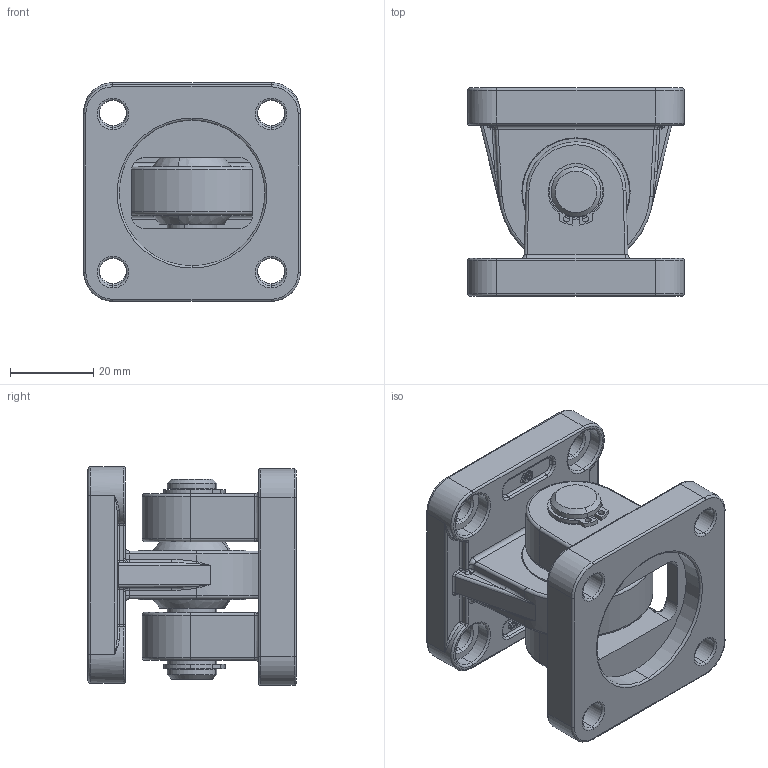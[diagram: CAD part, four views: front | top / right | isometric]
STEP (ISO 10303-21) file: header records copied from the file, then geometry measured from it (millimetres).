
FILE_DESCRIPTION (( 'STEP AP203' ), '1' );
FILE_NAME ('蚾饜极-ISO-CN 40.STEP', '2022-06-23T10:30:26', ( 'Windows' ), ( 'Microsoft' ), 'SwSTEP 2.0', 'SolidWorks 2018', '' );
FILE_SCHEMA (( 'CONFIG_CONTROL_DESIGN' ));
Length unit declared in the file: millimetre
Products named in the file (9): SGS-26X12-ͭȦ; SGS-22.2X16-紩赽; ISO-CS 40ㄗ磁踢ㄘ; C-12; SF-1 141211; ISO-CN 40-种赽; 蚾饜极-ISO-CN 40; ISO-CN 40-MP; ISO-CS40ㄗ磁踢ㄘ
Assembly tree (10 placements, depth 3):
  蚾饜极-ISO-CN 40
    ISO-CN 40-MP
    ISO-CS 40ㄗ磁踢ㄘ
      ISO-CS40ㄗ磁踢ㄘ
      SGS-26X12-ͭȦ
      SGS-22.2X16-紩赽
    C-12  x2
    SF-1 141211  x2
    ISO-CN 40-种赽
Bounding box: 52 x 50 x 52.5 mm (x, y, z)
Volume: 64736.2 mm3; surface area: 30288.9 mm2
Topology: 9 solids, 9 shells, 697 faces, 1681 edges, 1005 vertices
Faces by surface type: cylinder 211, plane 169, bspline 147, torus 110, cone 48, sphere 12
Entity records: 26551 total; most frequent: CARTESIAN_POINT 10898, ORIENTED_EDGE 3132, DIRECTION 2954, EDGE_CURVE 1566, AXIS2_PLACEMENT_3D 1150, VERTEX_POINT 950, EDGE_LOOP 730, FACE_OUTER_BOUND 665
